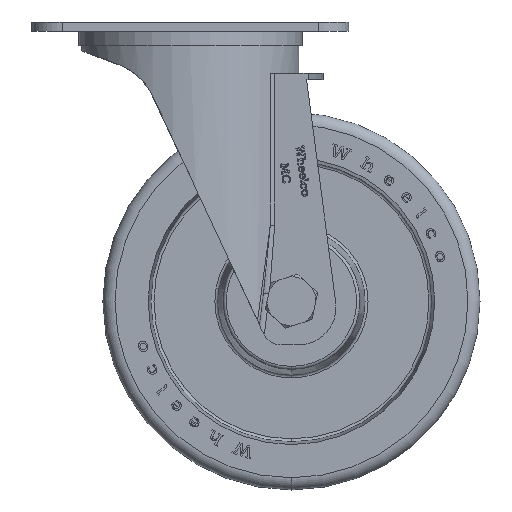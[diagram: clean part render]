
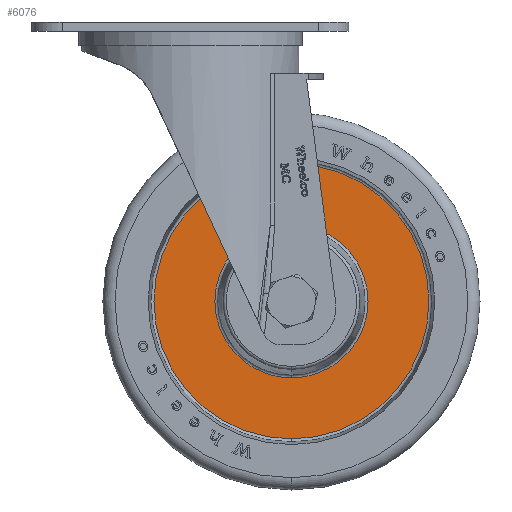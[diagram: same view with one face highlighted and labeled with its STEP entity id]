
A CAD part, top view. The second image highlights one B-rep face of the part: STEP entity #6076.
In plain terms, the highlighted planar face has unit normal (0, 0, 1) as drawn and (0, 1, 0) by its records, which use the part's own axes.
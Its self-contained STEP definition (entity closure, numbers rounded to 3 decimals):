
#54 = FACE_OUTER_BOUND ( 'NONE', #34220, .T. ) ;
#893 = DIRECTION ( 'NONE',  ( 0., 0., 1. ) ) ;
#1789 = EDGE_LOOP ( 'NONE', ( #29376, #48682 ) ) ;
#2015 = VERTEX_POINT ( 'NONE', #49087 ) ;
#3147 = AXIS2_PLACEMENT_3D ( 'NONE', #31146, #31390, #7336 ) ;
#4529 = DIRECTION ( 'NONE',  ( 0., 1., 0. ) ) ;
#4845 = DIRECTION ( 'NONE',  ( 0., 0., 1. ) ) ;
#6076 = ADVANCED_FACE ( 'NONE', ( #54, #40386 ), #8466, .T. ) ;
#7336 = DIRECTION ( 'NONE',  ( 0., 0., 1. ) ) ;
#7943 = CARTESIAN_POINT ( 'NONE',  ( 24.5, 5.5, 0. ) ) ;
#8466 = PLANE ( 'NONE',  #44128 ) ;
#8770 = CARTESIAN_POINT ( 'NONE',  ( 0., 5.5, 0. ) ) ;
#8771 = DIRECTION ( 'NONE',  ( 0., 1., 0. ) ) ;
#10598 = DIRECTION ( 'NONE',  ( 0., 0., 1. ) ) ;
#11388 = VERTEX_POINT ( 'NONE', #35360 ) ;
#11495 = CARTESIAN_POINT ( 'NONE',  ( 0., 5.5, 25.383 ) ) ;
#11726 = VERTEX_POINT ( 'NONE', #11495 ) ;
#14228 = CARTESIAN_POINT ( 'NONE',  ( 0., 5.5, -45.58 ) ) ;
#17313 = CIRCLE ( 'NONE', #3147, 25.383 ) ;
#17662 = DIRECTION ( 'NONE',  ( 0., 1., 0. ) ) ;
#19238 = ORIENTED_EDGE ( 'NONE', *, *, #25831, .T. ) ;
#22293 = CIRCLE ( 'NONE', #51587, 45.58 ) ;
#24764 = VERTEX_POINT ( 'NONE', #14228 ) ;
#25186 = CIRCLE ( 'NONE', #38553, 45.58 ) ;
#25793 = CARTESIAN_POINT ( 'NONE',  ( 0., 5.5, 0. ) ) ;
#25831 = EDGE_CURVE ( 'NONE', #24764, #11388, #25186, .T. ) ;
#29259 = EDGE_CURVE ( 'NONE', #2015, #11726, #30332, .T. ) ;
#29376 = ORIENTED_EDGE ( 'NONE', *, *, #34724, .T. ) ;
#30332 = CIRCLE ( 'NONE', #32004, 25.383 ) ;
#31146 = CARTESIAN_POINT ( 'NONE',  ( 0., 5.5, 0. ) ) ;
#31390 = DIRECTION ( 'NONE',  ( 0., -1., 0. ) ) ;
#32004 = AXIS2_PLACEMENT_3D ( 'NONE', #8770, #33073, #893 ) ;
#33073 = DIRECTION ( 'NONE',  ( 0., -1., 0. ) ) ;
#34220 = EDGE_LOOP ( 'NONE', ( #46823, #19238 ) ) ;
#34724 = EDGE_CURVE ( 'NONE', #11726, #2015, #17313, .T. ) ;
#35360 = CARTESIAN_POINT ( 'NONE',  ( 0., 5.5, 45.58 ) ) ;
#35649 = DIRECTION ( 'NONE',  ( 0., 0., 1. ) ) ;
#36761 = EDGE_CURVE ( 'NONE', #11388, #24764, #22293, .T. ) ;
#38553 = AXIS2_PLACEMENT_3D ( 'NONE', #25793, #17662, #10598 ) ;
#40386 = FACE_BOUND ( 'NONE', #1789, .T. ) ;
#44128 = AXIS2_PLACEMENT_3D ( 'NONE', #7943, #4529, #35649 ) ;
#44631 = CARTESIAN_POINT ( 'NONE',  ( 0., 5.5, 0. ) ) ;
#46823 = ORIENTED_EDGE ( 'NONE', *, *, #36761, .T. ) ;
#48682 = ORIENTED_EDGE ( 'NONE', *, *, #29259, .T. ) ;
#49087 = CARTESIAN_POINT ( 'NONE',  ( 0., 5.5, -25.383 ) ) ;
#51587 = AXIS2_PLACEMENT_3D ( 'NONE', #44631, #8771, #4845 ) ;
